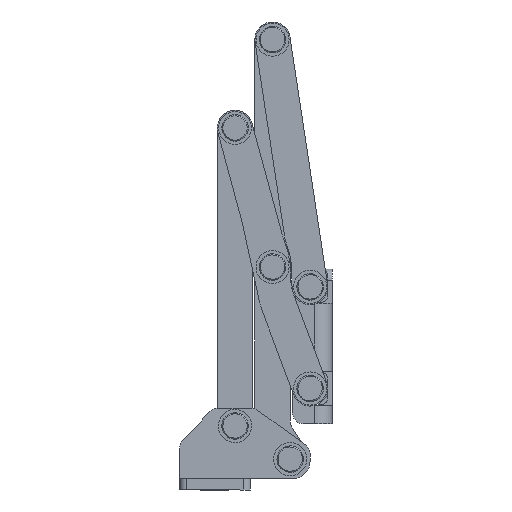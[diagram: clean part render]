
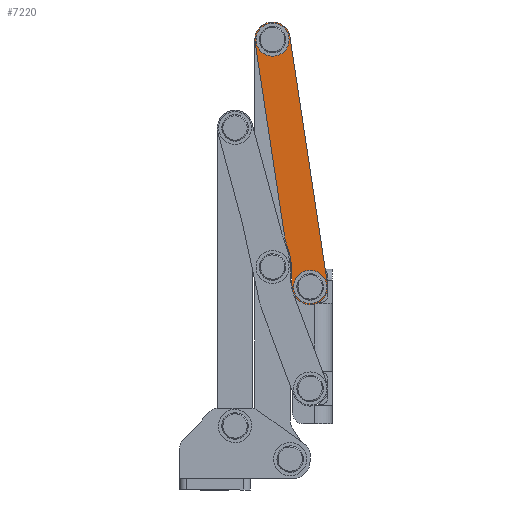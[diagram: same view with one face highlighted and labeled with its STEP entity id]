
A CAD part, front view. The second image highlights one B-rep face of the part: STEP entity #7220.
In plain terms, the highlighted planar face has unit normal (0, -1, 0) as drawn and (0, 1, 0) by its records, which use the part's own axes.
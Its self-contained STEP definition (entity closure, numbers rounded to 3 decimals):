
#104 = VERTEX_POINT ( 'NONE', #1074 ) ;
#152 = EDGE_CURVE ( 'NONE', #8018, #6501, #175, .T. ) ;
#157 = AXIS2_PLACEMENT_3D ( 'NONE', #3229, #1933, #8709 ) ;
#175 = CIRCLE ( 'NONE', #4760, 40. ) ;
#270 = EDGE_CURVE ( 'NONE', #3603, #8182, #5774, .T. ) ;
#343 = CARTESIAN_POINT ( 'NONE',  ( 9264.233, -645.5, 1529.085 ) ) ;
#470 = DIRECTION ( 'NONE',  ( 0., 0., -1. ) ) ;
#501 = EDGE_LOOP ( 'NONE', ( #2305, #5249 ) ) ;
#581 = EDGE_CURVE ( 'NONE', #6211, #2975, #3474, .T. ) ;
#583 = EDGE_CURVE ( 'NONE', #3738, #104, #3059, .T. ) ;
#599 = CARTESIAN_POINT ( 'NONE',  ( 9275., -645.5, 1549. ) ) ;
#669 = DIRECTION ( 'NONE',  ( 0.15, 0., 0.989 ) ) ;
#670 = CARTESIAN_POINT ( 'NONE',  ( 9275., -645.5, 1549. ) ) ;
#731 = ORIENTED_EDGE ( 'NONE', *, *, #4552, .F. ) ;
#753 = CIRCLE ( 'NONE', #1179, 8. ) ;
#878 = EDGE_CURVE ( 'NONE', #5844, #8182, #6597, .T. ) ;
#880 = EDGE_CURVE ( 'NONE', #104, #3738, #4912, .T. ) ;
#906 = CARTESIAN_POINT ( 'NONE',  ( 9258., -645.5, 1437. ) ) ;
#926 = DIRECTION ( 'NONE',  ( 0., -1., 0. ) ) ;
#961 = DIRECTION ( 'NONE',  ( -0.15, 0., -0.989 ) ) ;
#976 = CARTESIAN_POINT ( 'NONE',  ( 9226.772, -645.5, 1543.11 ) ) ;
#991 = ORIENTED_EDGE ( 'NONE', *, *, #583, .F. ) ;
#1074 = CARTESIAN_POINT ( 'NONE',  ( 9275., -645.5, 1544. ) ) ;
#1102 = ORIENTED_EDGE ( 'NONE', *, *, #270, .F. ) ;
#1179 = AXIS2_PLACEMENT_3D ( 'NONE', #4469, #3025, #7797 ) ;
#1234 = DIRECTION ( 'NONE',  ( 0., -1., 0. ) ) ;
#1281 = ORIENTED_EDGE ( 'NONE', *, *, #1334, .F. ) ;
#1334 = EDGE_CURVE ( 'NONE', #5844, #8018, #6184, .T. ) ;
#1394 = CARTESIAN_POINT ( 'NONE',  ( 9282.909, -645.5, 1547.799 ) ) ;
#1647 = ORIENTED_EDGE ( 'NONE', *, *, #152, .F. ) ;
#1742 = VERTEX_POINT ( 'NONE', #5612 ) ;
#1784 = CARTESIAN_POINT ( 'NONE',  ( 9258., -645.5, 1442. ) ) ;
#1871 = DIRECTION ( 'NONE',  ( 0., -1., 0. ) ) ;
#1933 = DIRECTION ( 'NONE',  ( 0., 1., 0. ) ) ;
#2029 = FACE_OUTER_BOUND ( 'NONE', #6876, .T. ) ;
#2032 = CIRCLE ( 'NONE', #3597, 5. ) ;
#2190 = DIRECTION ( 'NONE',  ( 0., 0., 1. ) ) ;
#2305 = ORIENTED_EDGE ( 'NONE', *, *, #2736, .F. ) ;
#2351 = AXIS2_PLACEMENT_3D ( 'NONE', #2521, #1871, #7357 ) ;
#2352 = CARTESIAN_POINT ( 'NONE',  ( 9275., -645.5, 1557. ) ) ;
#2521 = CARTESIAN_POINT ( 'NONE',  ( 9275., -645.5, 1549. ) ) ;
#2728 = AXIS2_PLACEMENT_3D ( 'NONE', #3652, #926, #7733 ) ;
#2736 = EDGE_CURVE ( 'NONE', #6522, #1742, #2032, .T. ) ;
#2824 = CARTESIAN_POINT ( 'NONE',  ( 9266.708, -645.5, 1545.387 ) ) ;
#2825 = EDGE_CURVE ( 'NONE', #1742, #6522, #3173, .T. ) ;
#2850 = CARTESIAN_POINT ( 'NONE',  ( 9265.909, -645.5, 1435.799 ) ) ;
#2927 = AXIS2_PLACEMENT_3D ( 'NONE', #5110, #7099, #3099 ) ;
#2975 = VERTEX_POINT ( 'NONE', #1394 ) ;
#3025 = DIRECTION ( 'NONE',  ( 0., -1., 0. ) ) ;
#3059 = CIRCLE ( 'NONE', #4206, 5. ) ;
#3099 = DIRECTION ( 'NONE',  ( 0., 0., 1. ) ) ;
#3173 = CIRCLE ( 'NONE', #157, 5. ) ;
#3229 = CARTESIAN_POINT ( 'NONE',  ( 9258., -645.5, 1437. ) ) ;
#3329 = FACE_BOUND ( 'NONE', #4985, .T. ) ;
#3474 = LINE ( 'NONE', #2850, #5200 ) ;
#3597 = AXIS2_PLACEMENT_3D ( 'NONE', #906, #8397, #4307 ) ;
#3603 = VERTEX_POINT ( 'NONE', #2352 ) ;
#3652 = CARTESIAN_POINT ( 'NONE',  ( 9282.682, -645.5, 1546.298 ) ) ;
#3738 = VERTEX_POINT ( 'NONE', #4575 ) ;
#3850 = DIRECTION ( 'NONE',  ( 0., 0., 1. ) ) ;
#3924 = CIRCLE ( 'NONE', #5930, 16. ) ;
#4206 = AXIS2_PLACEMENT_3D ( 'NONE', #5579, #6936, #2190 ) ;
#4220 = EDGE_CURVE ( 'NONE', #6501, #6225, #3924, .T. ) ;
#4273 = ORIENTED_EDGE ( 'NONE', *, *, #4220, .F. ) ;
#4307 = DIRECTION ( 'NONE',  ( 0., 0., 1. ) ) ;
#4411 = LINE ( 'NONE', #8445, #8757 ) ;
#4469 = CARTESIAN_POINT ( 'NONE',  ( 9258., -645.5, 1437. ) ) ;
#4552 = EDGE_CURVE ( 'NONE', #2975, #3603, #6891, .T. ) ;
#4575 = CARTESIAN_POINT ( 'NONE',  ( 9275., -645.5, 1554. ) ) ;
#4608 = CARTESIAN_POINT ( 'NONE',  ( 9266.863, -645.5, 1548.699 ) ) ;
#4725 = AXIS2_PLACEMENT_3D ( 'NONE', #670, #5448, #5999 ) ;
#4760 = AXIS2_PLACEMENT_3D ( 'NONE', #976, #6451, #7849 ) ;
#4865 = VERTEX_POINT ( 'NONE', #5223 ) ;
#4912 = CIRCLE ( 'NONE', #2927, 5. ) ;
#4985 = EDGE_LOOP ( 'NONE', ( #991, #8601 ) ) ;
#5110 = CARTESIAN_POINT ( 'NONE',  ( 9275., -645.5, 1549. ) ) ;
#5200 = VECTOR ( 'NONE', #669, 1000. ) ;
#5202 = ORIENTED_EDGE ( 'NONE', *, *, #878, .T. ) ;
#5223 = CARTESIAN_POINT ( 'NONE',  ( 9250.091, -645.5, 1438.201 ) ) ;
#5249 = ORIENTED_EDGE ( 'NONE', *, *, #2825, .F. ) ;
#5316 = EDGE_CURVE ( 'NONE', #6225, #4865, #4411, .T. ) ;
#5448 = DIRECTION ( 'NONE',  ( 0., -1., 0. ) ) ;
#5579 = CARTESIAN_POINT ( 'NONE',  ( 9275., -645.5, 1549. ) ) ;
#5582 = CARTESIAN_POINT ( 'NONE',  ( 9263.398, -645.5, 1525.876 ) ) ;
#5612 = CARTESIAN_POINT ( 'NONE',  ( 9258., -645.5, 1432. ) ) ;
#5774 = CIRCLE ( 'NONE', #2351, 8. ) ;
#5783 = ORIENTED_EDGE ( 'NONE', *, *, #6398, .F. ) ;
#5789 = CARTESIAN_POINT ( 'NONE',  ( 9267.091, -645.5, 1550.201 ) ) ;
#5844 = VERTEX_POINT ( 'NONE', #4608 ) ;
#5930 = AXIS2_PLACEMENT_3D ( 'NONE', #7230, #6507, #3850 ) ;
#5984 = PLANE ( 'NONE',  #7933 ) ;
#5999 = DIRECTION ( 'NONE',  ( 0., 0., 1. ) ) ;
#6184 = CIRCLE ( 'NONE', #2728, 16. ) ;
#6211 = VERTEX_POINT ( 'NONE', #6217 ) ;
#6217 = CARTESIAN_POINT ( 'NONE',  ( 9265.909, -645.5, 1435.799 ) ) ;
#6225 = VERTEX_POINT ( 'NONE', #5582 ) ;
#6398 = EDGE_CURVE ( 'NONE', #4865, #6211, #753, .T. ) ;
#6445 = ORIENTED_EDGE ( 'NONE', *, *, #581, .F. ) ;
#6451 = DIRECTION ( 'NONE',  ( 0., 1., 0. ) ) ;
#6484 = VECTOR ( 'NONE', #7184, 1000. ) ;
#6501 = VERTEX_POINT ( 'NONE', #343 ) ;
#6507 = DIRECTION ( 'NONE',  ( 0., -1., 0. ) ) ;
#6512 = CARTESIAN_POINT ( 'NONE',  ( 9267.091, -645.5, 1550.201 ) ) ;
#6522 = VERTEX_POINT ( 'NONE', #1784 ) ;
#6597 = LINE ( 'NONE', #5789, #6484 ) ;
#6668 = FACE_BOUND ( 'NONE', #501, .T. ) ;
#6715 = ORIENTED_EDGE ( 'NONE', *, *, #5316, .F. ) ;
#6876 = EDGE_LOOP ( 'NONE', ( #4273, #1647, #1281, #5202, #1102, #731, #6445, #5783, #6715 ) ) ;
#6891 = CIRCLE ( 'NONE', #4725, 8. ) ;
#6936 = DIRECTION ( 'NONE',  ( 0., 1., 0. ) ) ;
#7099 = DIRECTION ( 'NONE',  ( 0., 1., 0. ) ) ;
#7184 = DIRECTION ( 'NONE',  ( 0.15, 0., 0.989 ) ) ;
#7220 = ADVANCED_FACE ( 'NONE', ( #3329, #6668, #2029 ), #5984, .F. ) ;
#7230 = CARTESIAN_POINT ( 'NONE',  ( 9279.217, -645.5, 1523.475 ) ) ;
#7357 = DIRECTION ( 'NONE',  ( 0., 0., 1. ) ) ;
#7733 = DIRECTION ( 'NONE',  ( 0., 0., 1. ) ) ;
#7797 = DIRECTION ( 'NONE',  ( 0., 0., 1. ) ) ;
#7849 = DIRECTION ( 'NONE',  ( 0., 0., 1. ) ) ;
#7933 = AXIS2_PLACEMENT_3D ( 'NONE', #599, #1234, #470 ) ;
#8018 = VERTEX_POINT ( 'NONE', #2824 ) ;
#8182 = VERTEX_POINT ( 'NONE', #6512 ) ;
#8397 = DIRECTION ( 'NONE',  ( 0., 1., 0. ) ) ;
#8445 = CARTESIAN_POINT ( 'NONE',  ( 9263.398, -645.5, 1525.876 ) ) ;
#8601 = ORIENTED_EDGE ( 'NONE', *, *, #880, .F. ) ;
#8709 = DIRECTION ( 'NONE',  ( 0., 0., 1. ) ) ;
#8757 = VECTOR ( 'NONE', #961, 1000. ) ;
